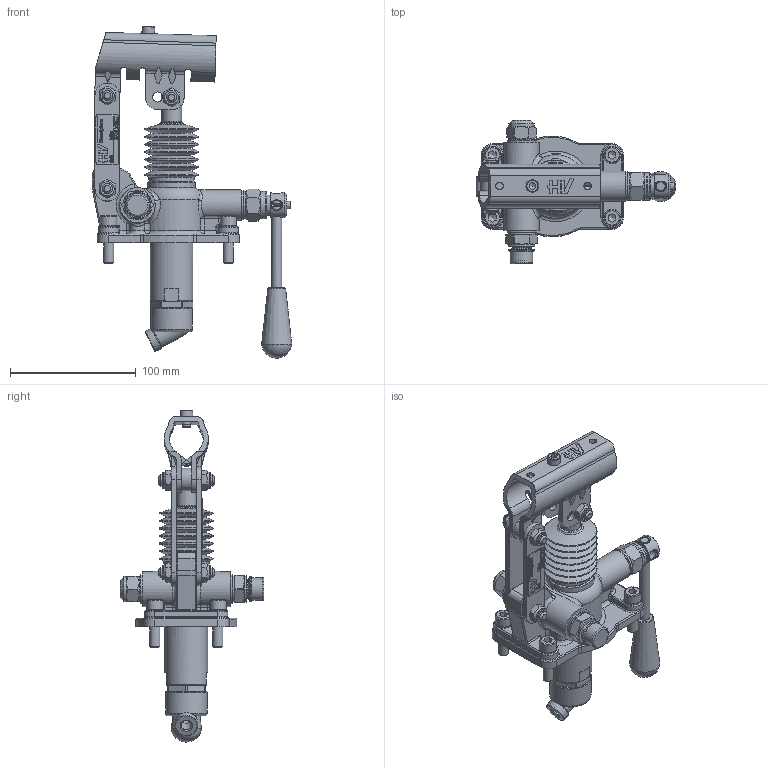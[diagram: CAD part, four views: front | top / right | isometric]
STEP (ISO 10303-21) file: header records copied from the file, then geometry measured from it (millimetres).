
FILE_DESCRIPTION((''),'2;1');
FILE_NAME('G:\HV_HYDRAULIC\AZIENDA_HV_HYDRAULIC\ARCHIVIO_DISEGNI\5_PRODOTTI_FINITI\1_POMPE_MANUALI\6049_PM_6\6049.0123_PM_6_byB-L-s_(HV)\6049.0123.stp','2024-02-27T15:51:12',('christian.scardovi'),(''),'Autodesk Inventor 2013','Autodesk Inventor 2013','');
FILE_SCHEMA(('AUTOMOTIVE_DESIGN { 1 0 10303 214 1 1 1 1 }'));
Length unit declared in the file: millimetre
Products named in the file (1): 6049.0123
Bounding box: 158.49 x 114 x 263.61 mm (x, y, z)
Volume: 2545.7 mm3; surface area: 140449.3 mm2
Topology: 29 solids, 30 shells, 1612 faces, 4009 edges, 2533 vertices
Faces by surface type: plane 746, cylinder 335, cone 195, bspline 191, torus 128, sphere 17
Full cylindrical faces by diameter (mm): 4.917 x1, 5 x5, 6 x5, 6.5 x2, 7.5 x1, 8 x31, 8.5 x4, 9 x3, 9.2 x1, 10 x5, 11.05 x6, 12 x5, 13 x4, 13.2 x1, 14 x4, 14.95 x4, 15 x2, 16 x7, 16.6 x3, 17 x3, 18 x6, 18.1 x1, 20 x4, 20.6 x2, 21 x2, 21.8 x2, 22 x1, 22.4 x2, 23 x5, 24 x1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
Entity records: 49362 total; most frequent: CARTESIAN_POINT 12533, ORIENTED_EDGE 7056, DIRECTION 6783, EDGE_CURVE 3528, AXIS2_PLACEMENT_3D 2484, VERTEX_POINT 2406, EDGE_LOOP 2130, VECTOR 1815
